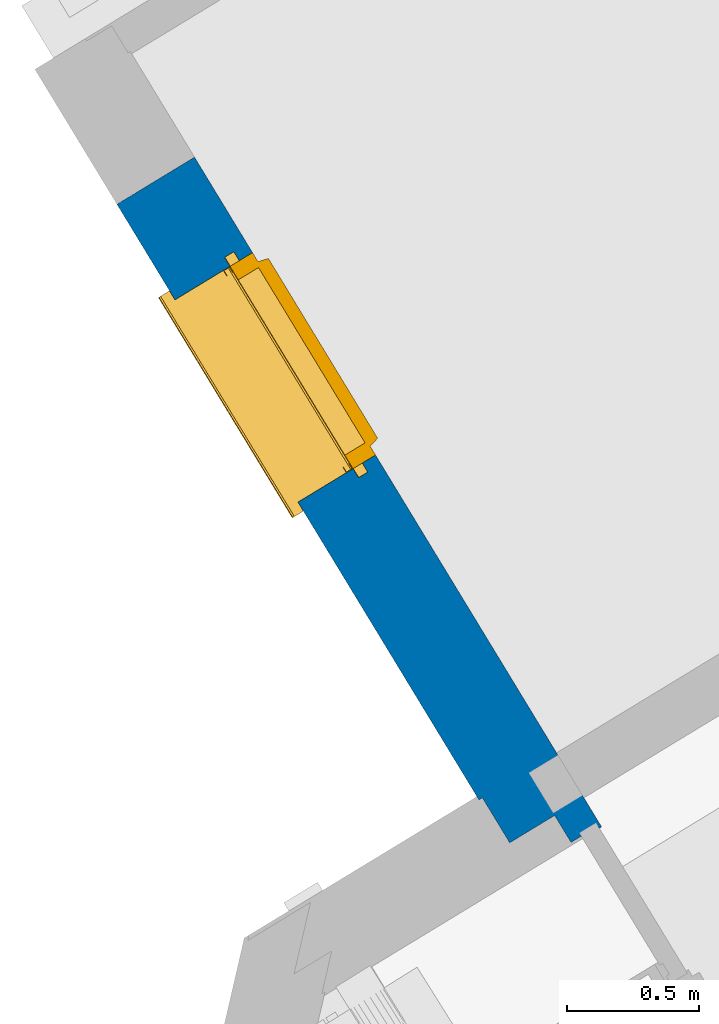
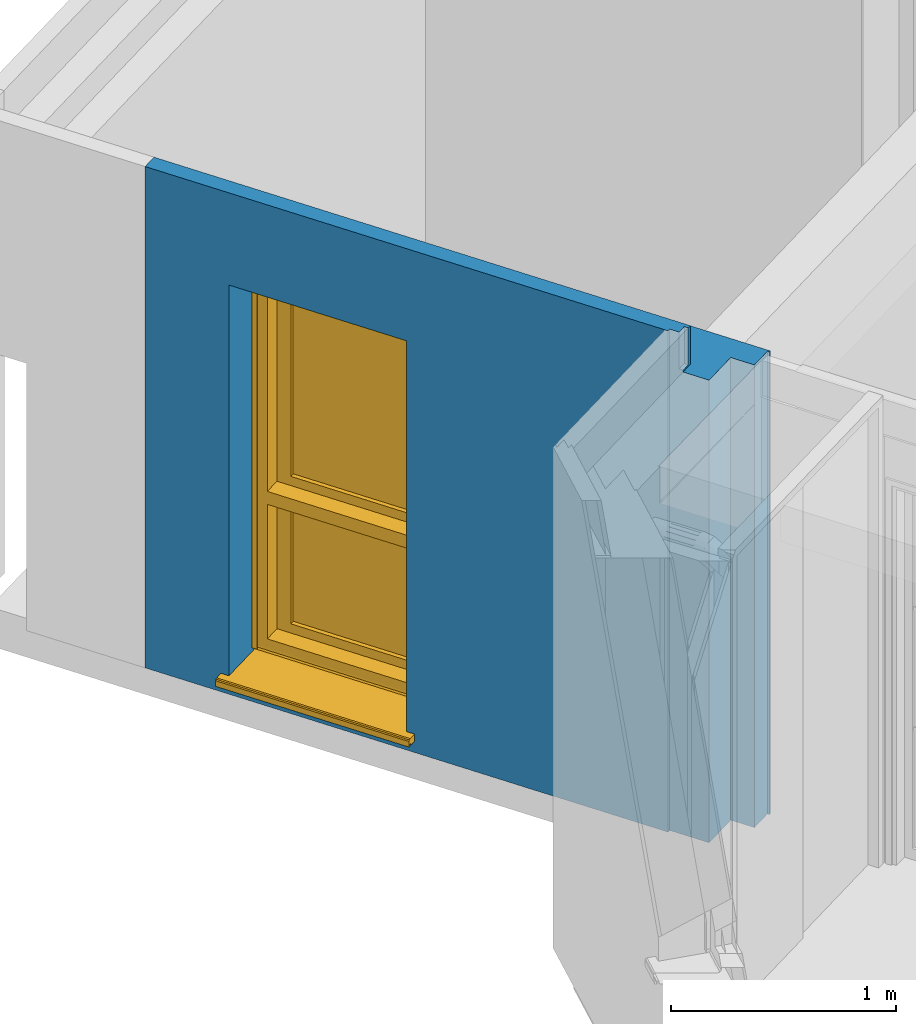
# One storey, part 35 of 90: 1 wall, 1 window, 1 opening.
"""IFC2X3 building model written with IfcOpenShell, lengths in metres."""

from ifc_helpers import new_model, entity, si_unit, converted_unit, derived_unit, money_unit, direction, frame, origin_with_axes, place, context, subcontext, project, spatial, open_shell, faceted_brep, surface_model, source, transform, mapped, material, material_list, type_object, element, fill, save


model = new_model("IFC2X3")

# Units and contexts
model_context = context("Model", 3, precision=1e-05, world=origin_with_axes(), true_north=direction((0.0, 1.0)))
body_context = subcontext(model_context, "Body", "Model", "MODEL_VIEW")
ifc_project = project(units=[si_unit("LENGTHUNIT", "METRE"), si_unit("AREAUNIT", "SQUARE_METRE"), si_unit("VOLUMEUNIT", "CUBIC_METRE"), converted_unit("PLANEANGLEUNIT", "DEGREE", entity("IfcPlaneAngleMeasure", 0.0174532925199), si_unit("PLANEANGLEUNIT", "RADIAN"), dimensions=[0, 0, 0, 0, 0, 0, 0]), si_unit("SOLIDANGLEUNIT", "STERADIAN"), money_unit("EUR"), converted_unit("TIMEUNIT", "Year", entity("IfcTimeMeasure", 31556926.0), si_unit("TIMEUNIT", "SECOND"), dimensions=[0, 0, 1, 0, 0, 0, 0]), si_unit("MASSUNIT", "GRAM", prefix="KILO"), si_unit("THERMODYNAMICTEMPERATUREUNIT", "DEGREE_CELSIUS"), si_unit("LUMINOUSINTENSITYUNIT", "LUMEN"), si_unit("ENERGYUNIT", "JOULE", prefix="MEGA"), derived_unit("THERMALCONDUCTANCEUNIT", [(si_unit("POWERUNIT", "WATT"), 1), (si_unit("LENGTHUNIT", "METRE"), -1), (si_unit("THERMODYNAMICTEMPERATUREUNIT", "KELVIN"), -1)]), derived_unit("SPECIFICHEATCAPACITYUNIT", [(si_unit("ENERGYUNIT", "JOULE"), 1), (si_unit("MASSUNIT", "GRAM", prefix="KILO"), -1), (si_unit("THERMODYNAMICTEMPERATUREUNIT", "KELVIN"), -1)]), derived_unit("MASSDENSITYUNIT", [(si_unit("MASSUNIT", "GRAM", prefix="KILO"), 1), (si_unit("VOLUMEUNIT", "CUBIC_METRE"), -1)])], contexts=[model_context])

# Site, building, storey
site_placement = place(None, origin_with_axes())
site = spatial("IfcSite", under=ifc_project, at=site_placement, Name="Site", CompositionType="ELEMENT")
building_placement = place(site_placement, origin_with_axes())
building = spatial("IfcBuilding", under=site, at=building_placement, Name="Bâtiment", CompositionType="ELEMENT")
storey_placement = place(building_placement, frame((0.0, 0.0, 2.72), z_axis=(0.0, 0.0, 1.0), x_axis=(1.0, 0.0, 0.0)))
storey = spatial("IfcBuildingStorey", under=building, at=storey_placement, Name="R+1", CompositionType="ELEMENT", Elevation=2.72)

# Wall, opening, window
ifc_material_1 = material(Name="Finition int - Plaque de plâtre")
ifc_material_2 = material(Name="Isolation - Polystyrène extrudé")
ifc_material_3 = material(Name="Bloc ELITHERM")
ifc_material_4 = material(Name="Isolation - Polystyrène expansé")
ifc_material_5 = material(Name="Mortier")
ifc_material_6 = material(Name="Béton cellulaire")
ifc_material_7 = material(Name="Finition ext - Crépis")
ifc_material_list = material_list([ifc_material_1, ifc_material_2, ifc_material_3, ifc_material_4, ifc_material_5, ifc_material_6, ifc_material_7])
wall_type = type_object("IfcWallType", Name="Mur ALKERN + planelle 21 345 x 2720", PredefinedType="USERDEFINED")
wall_placement = place(storey_placement, frame((-7.33457245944, 20.4304324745, 0.0), z_axis=(0.0, 0.0, 1.0), x_axis=(0.519386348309, -0.854539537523, 0.0)))
wall = element("IfcWall", 1, at=wall_placement, inside=storey, type_object=wall_type, material=ifc_material_list, Name="Mue bloc ALKERN isolé", ObjectType="SOLIDWALL", context=body_context, shape_type="Brep", body=[
    faceted_brep([(0.0, 0.34499998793, 2.51), (2.97982704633, 0.344999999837, 2.51), (2.97982704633, 0.344999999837, 2.31), (2.97982707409, 0.34499998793, 0.0), (0.0, 0.34499998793, 0.0), (0.42500000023, 0.34499998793, 2.4), (0.42500000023, 0.344999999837, 2.22), (0.42500000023, 0.344999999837, 0.12), (1.32500000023, 0.344999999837, 0.12), (1.32500000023, 0.344999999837, 2.22), (1.32500000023, 0.34499998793, 2.4), (0.0, 0.335000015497, 2.51), (2.97975719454, 0.335000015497, 2.51), (2.97975719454, 0.335000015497, 2.31), (2.9798270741, 0.335000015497, 0.0), (2.9798270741, 0.335000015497, 2.31), (0.0, 0.335000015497, 0.0), (0.42500000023, 0.335000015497, 2.4), (0.42500000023, 0.335000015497, 2.22), (0.42500000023, 0.335000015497, 0.12), (1.32500000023, 0.335000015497, 0.12), (1.32500000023, 0.335000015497, 2.22), (1.32500000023, 0.335000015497, 2.4)], [[[0, 1, 2, 3, 4], [5, 6, 7, 8, 9, 10]], [[0, 11, 12, 1]], [[12, 13, 2, 1]], [[14, 3, 2, 15]], [[14, 16, 4, 3]], [[0, 4, 16, 11]], [[6, 5, 17, 18]], [[6, 18, 19, 7]], [[7, 19, 20, 8]], [[21, 9, 8, 20]], [[10, 9, 21, 22]], [[5, 10, 22, 17]], [[13, 12, 11, 16, 14, 15], [22, 21, 20, 19, 18, 17]], [[15, 2, 13]]]),
    faceted_brep([(0.42500000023, 0.286, 0.12), (1.32500000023, 0.286, 0.12), (1.32500000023, 0.335000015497, 0.12), (0.42500000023, 0.335000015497, 0.12), (0.42500000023, 0.286, 0.06), (1.32500000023, 0.286, 0.06), (1.32500000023, 0.215000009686, 0.06), (1.32500000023, 0.215000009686, 0.12), (1.32500000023, 0.215, 2.22), (1.32500000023, 0.215, 2.4), (1.32500000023, 0.335000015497, 2.4), (1.32500000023, 0.335000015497, 2.22), (0.0, 0.335000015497, 2.51), (2.96982710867, 0.335000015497, 2.51), (2.96982710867, 0.335000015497, 0.0), (0.0, 0.335000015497, 0.0), (0.42500000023, 0.335000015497, 2.4), (0.42500000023, 0.335000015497, 2.22), (0.42500000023, 0.215000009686, 0.12), (0.42500000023, 0.215000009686, 0.06), (0.42500000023, 0.215, 2.4), (0.42500000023, 0.215, 2.22), (0.0, 0.215000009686, 0.0), (2.96982710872, 0.215000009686, 0.0), (2.96982710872, 0.215000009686, 2.51), (0.0, 0.215000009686, 2.51)], [[[0, 1, 2, 3]], [[1, 0, 4, 5]], [[1, 5, 6, 7, 8, 9, 10, 11, 2]], [[12, 13, 14, 15], [2, 11, 10, 16, 17, 3]], [[18, 19, 4, 0, 3, 17, 16, 20, 21]], [[19, 6, 5, 4]], [[22, 23, 24, 25], [19, 18, 21, 20, 9, 8, 7, 6]], [[10, 9, 20, 16]], [[25, 24, 13, 12]], [[23, 14, 13, 24]], [[15, 14, 23, 22]], [[15, 22, 25, 12]]]),
    faceted_brep([(0.0, 0.214999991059, 0.0), (0.0, 0.214999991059, 2.50999999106), (2.84982710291, 0.214999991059, 2.51), (2.84982710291, 0.214999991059, 0.0), (0.42500000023, 0.214999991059, 0.06), (1.32500000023, 0.214999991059, 0.06), (1.32500000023, 0.214999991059, 0.12), (1.32500000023, 0.214999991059, 2.22), (0.42500000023, 0.214999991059, 2.22), (0.42500000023, 0.214999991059, 0.12), (0.0, 0.015, 0.0), (0.0, 0.015, 2.50999999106), (0.0, 0.0829999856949, 2.50999999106), (2.84982710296, 0.0829999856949, 2.51), (2.84982710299, 0.015, 0.0), (2.84982710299, 0.015, 2.51), (0.42500000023, 0.015, 0.06), (1.32500000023, 0.015, 0.06), (1.32500000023, 0.015, 0.12), (1.32500000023, 0.015, 2.22), (0.42500000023, 0.015, 2.22), (0.42500000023, 0.015, 0.12)], [[[0, 1, 2, 3], [4, 5, 6, 7, 8, 9]], [[1, 0, 10, 11, 12]], [[1, 12, 13, 2]], [[14, 3, 2, 13, 15]], [[10, 0, 3, 14]], [[5, 4, 16, 17]], [[6, 5, 17, 18, 19, 7]], [[7, 19, 20, 8]], [[21, 16, 4, 9, 8, 20]], [[11, 10, 14, 15], [16, 21, 20, 19, 18, 17]], [[12, 11, 15, 13]]]),
    faceted_brep([(0.0, 0.0630000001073, 2.72), (2.71782709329, 0.0630000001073, 2.72), (2.71782709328, 0.083000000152, 2.72), (0.0, 0.083000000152, 2.72), (0.0, 0.0630000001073, 2.51999999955), (2.71782709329, 0.0630000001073, 2.51999998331), (2.71782709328, 0.083000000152, 2.51999998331), (0.0, 0.083000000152, 2.51999999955)], [[[0, 1, 2, 3]], [[4, 5, 1, 0]], [[5, 6, 2, 1]], [[3, 2, 6, 7]], [[7, 4, 0, 3]], [[7, 6, 5, 4]]]),
    faceted_brep([(2.71782709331, 0.015, 2.51999998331), (2.71782709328, 0.083, 2.51999998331), (0.0, 0.083, 2.52), (0.0, 0.015, 2.52), (2.71782709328, 0.083, 2.51000000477), (2.71782709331, 0.015, 2.51000000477), (0.0, 0.083, 2.51), (0.0, 0.015, 2.51)], [[[0, 1, 2, 3]], [[4, 1, 0, 5]], [[1, 4, 6, 2]], [[3, 2, 6, 7]], [[5, 0, 3, 7]], [[4, 5, 7, 6]]]),
    faceted_brep([(2.69782709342, 0.015, 2.72), (2.6978270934, 0.0629999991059, 2.72), (0.0, 0.0629999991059, 2.72), (0.0, 0.015, 2.72), (2.6978270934, 0.0629999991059, 2.51999999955), (2.69782709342, 0.015, 2.51999999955), (0.0, 0.0629999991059, 2.51999999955), (0.0, 0.015, 2.51999999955)], [[[0, 1, 2, 3]], [[4, 1, 0, 5]], [[1, 4, 6, 2]], [[3, 2, 6, 7]], [[5, 0, 3, 7]], [[4, 5, 7, 6]]]),
    faceted_brep([(2.64982709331, 0.0149999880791, 0.0), (0.0, 0.0149999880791, 0.0), (0.0, 0.0149999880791, 2.72), (2.64982709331, 0.0149999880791, 2.72), (0.42500000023, 0.0149999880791, 0.06), (1.32500000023, 0.0149999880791, 0.06), (1.32500000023, 0.0149999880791, 0.12), (1.32500000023, 0.0149999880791, 2.22), (0.42500000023, 0.0149999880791, 2.22), (0.42500000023, 0.0149999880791, 0.12), (2.64982709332, 0.0, 0.0), (0.0, 0.0, 0.0), (0.0, 0.0, 2.72), (2.64982709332, 0.0, 2.72), (0.42500000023, 0.0, 0.06), (1.32500000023, 0.0, 0.06), (1.32500000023, 0.0, 0.12), (1.32500000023, 0.0, 2.22), (0.42500000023, 0.0, 2.22), (0.42500000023, 0.0, 0.12)], [[[0, 1, 2, 3], [4, 5, 6, 7, 8, 9]], [[10, 11, 1, 0]], [[12, 2, 1, 11]], [[3, 2, 12, 13]], [[13, 10, 0, 3]], [[5, 4, 14, 15]], [[6, 5, 15, 16, 17, 7]], [[7, 17, 18, 8]], [[19, 14, 4, 9, 8, 18]], [[12, 11, 10, 13], [14, 19, 18, 17, 16, 15]]]),
])
opening_placement = place(wall_placement, frame((0.87500000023, 0.0, 0.12), z_axis=(0.0, 0.0, 1.0), x_axis=(1.0, 0.0, 0.0)))
opening = element("IfcOpeningElement", 2, at=opening_placement, cuts=wall, Name="MEN 41", context=body_context, shape_type="Brep", body=[
    faceted_brep([(-0.45, 0.83499998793, 0.0), (0.45, 0.83499998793, 0.0), (0.45, 0.245, 0.0), (-0.45, 0.245, 0.0), (-0.45, 0.83499998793, 2.1), (0.45, 0.83499998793, 2.1), (0.45, 0.245, 2.1), (-0.45, 0.245, 2.1)], [[[0, 1, 2, 3]], [[0, 4, 5, 1]], [[1, 5, 6, 2]], [[3, 2, 6, 7]], [[4, 0, 3, 7]], [[5, 4, 7, 6]]]),
    faceted_brep([(-0.45, -0.34499998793, 0.0), (-0.45, -0.34499998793, 2.1), (-0.45, 0.245, 2.1), (-0.45, 0.245, 0.0), (0.45, -0.34499998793, 0.0), (0.45, -0.34499998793, 2.1), (0.45, 0.245, 2.1), (0.45, 0.245, 0.0)], [[[0, 1, 2, 3]], [[0, 4, 5, 1]], [[1, 5, 6, 2]], [[3, 2, 6, 7]], [[4, 0, 3, 7]], [[5, 4, 7, 6]]]),
    faceted_brep([(-0.45, -0.34499998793, 0.0), (-0.45, -0.34499998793, 2.1), (-0.45, 0.245, 2.1), (-0.45, 0.245, 0.0), (0.45, -0.34499998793, 0.0), (0.45, -0.34499998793, 2.1), (0.45, 0.245, 2.1), (0.45, 0.245, 0.0)], [[[0, 1, 2, 3]], [[0, 4, 5, 1]], [[1, 5, 6, 2]], [[3, 2, 6, 7]], [[4, 0, 3, 7]], [[5, 4, 7, 6]]]),
    faceted_brep([(-0.45, 0.80499998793, 2.1), (0.45, 0.80499998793, 2.1), (0.45, 0.215, 2.1), (-0.45, 0.215, 2.1), (-0.45, 0.80499998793, 2.28), (0.45, 0.80499998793, 2.28), (0.45, 0.215, 2.28), (-0.45, 0.215, 2.28)], [[[0, 1, 2, 3]], [[0, 4, 5, 1]], [[1, 5, 6, 2]], [[3, 2, 6, 7]], [[4, 0, 3, 7]], [[5, 4, 7, 6]]]),
    faceted_brep([(-0.45, -0.30399998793, 0.0), (0.45, -0.30399998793, 0.0), (0.45, 0.286, 0.0), (-0.45, 0.286, 0.0), (-0.45, -0.30399998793, -0.06), (0.45, -0.30399998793, -0.06), (0.45, 0.286, -0.06), (-0.45, 0.286, -0.06)], [[[0, 1, 2, 3]], [[0, 4, 5, 1]], [[1, 5, 6, 2]], [[3, 2, 6, 7]], [[4, 0, 3, 7]], [[5, 4, 7, 6]]]),
])
window_style = type_object("IfcWindowStyle", Name="Baie générique 2017 v2", ConstructionType="NOTDEFINED", OperationType="NOTDEFINED", ParameterTakesPrecedence=False, Sizeable=False)
shared_shape = source(origin_with_axes(), body_context, "Body", "SurfaceModel", [
    faceted_brep([(-0.45, 0.0, 2.1), (-0.45, 0.0, 0.0), (0.45, 0.0, 0.0), (0.45, 0.0, 2.1), (0.39, 0.0, 0.85), (-0.39, 0.0, 0.85), (-0.39, 0.0, 2.05), (0.39, 0.0, 2.05), (0.39, 0.0, 0.78), (0.39, 0.0, 0.05), (-0.39, 0.0, 0.05), (-0.39, 0.0, 0.78), (-0.45, 0.1, 2.1), (-0.45, 0.1, 0.0), (0.45, 0.1, 0.0), (0.45, 0.1, 2.1), (0.39, 0.1, 0.85), (-0.39, 0.1, 0.85), (-0.39, 0.1, 2.05), (0.39, 0.1, 2.05), (0.39, 0.1, 0.78), (0.39, 0.1, 0.05), (-0.39, 0.1, 0.05), (-0.39, 0.1, 0.78)], [[[0, 1, 2, 3], [4, 5, 6, 7], [8, 9, 10, 11]], [[0, 12, 13, 1]], [[1, 13, 14, 2]], [[2, 14, 15, 3]], [[3, 15, 12, 0]], [[4, 16, 17, 5]], [[5, 17, 18, 6]], [[6, 18, 19, 7]], [[16, 4, 7, 19]], [[8, 20, 21, 9]], [[9, 21, 22, 10]], [[23, 11, 10, 22]], [[20, 8, 11, 23]], [[14, 13, 12, 15], [16, 19, 18, 17], [20, 23, 22, 21]]]),
    faceted_brep([(0.32, 0.09, 1.98), (0.32, 0.14, 1.98), (0.32, 0.14, 0.9), (0.32, 0.09, 0.9), (-0.32, 0.09, 1.98), (-0.32, 0.14, 1.98), (0.400012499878, 0.140000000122, 0.839987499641), (-0.400012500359, 0.140000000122, 0.839987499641), (-0.400012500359, 0.140000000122, 2.0600124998), (0.400012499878, 0.140000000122, 2.0600124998), (-0.32, 0.14, 0.9), (-0.32, 0.09, 0.9), (0.39, 0.09, 2.05), (-0.39, 0.09, 2.05), (-0.39, 0.09, 0.85), (0.39, 0.09, 0.85), (0.41, 0.10005, 0.83), (-0.41, 0.10005, 0.83), (-0.41, 0.10005, 2.07), (0.41, 0.10005, 2.07), (0.39, 0.10005, 2.05), (-0.39, 0.10005, 2.05), (-0.39, 0.10005, 0.85), (0.39, 0.10005, 0.85)], [[[0, 1, 2, 3]], [[4, 5, 1, 0]], [[6, 7, 8, 9], [2, 1, 5, 10]], [[11, 3, 2, 10]], [[12, 13, 14, 15], [0, 3, 11, 4]], [[4, 11, 10, 5]], [[6, 16, 17, 7]], [[7, 17, 18, 8]], [[8, 18, 19, 9]], [[9, 19, 16, 6]], [[20, 21, 13, 12]], [[21, 22, 14, 13]], [[22, 23, 15, 14]], [[23, 20, 12, 15]], [[19, 18, 17, 16], [21, 20, 23, 22]]]),
    surface_model("IfcShellBasedSurfaceModel", [(-0.39, 0.14, 0.85), (-0.39, 0.115, 0.85), (-0.39, 0.115, 2.05), (-0.39, 0.14, 2.05)], [open_shell([[[0, 1, 2, 3]]])]),
    surface_model("IfcShellBasedSurfaceModel", [(0.39, 0.14, 0.85), (0.39, 0.115, 0.85), (0.39, 0.115, 2.05), (0.39, 0.14, 2.05)], [open_shell([[[0, 1, 2, 3]]])]),
    surface_model("IfcShellBasedSurfaceModel", [(-0.39, 0.14, 0.85), (-0.39, 0.115, 0.85), (0.39, 0.115, 0.85), (0.39, 0.14, 0.85)], [open_shell([[[0, 1, 2, 3]]])]),
    surface_model("IfcShellBasedSurfaceModel", [(-0.39, 0.14, 2.05), (-0.39, 0.115, 2.05), (0.39, 0.115, 2.05), (0.39, 0.14, 2.05)], [open_shell([[[0, 1, 2, 3]]])]),
    surface_model("IfcShellBasedSurfaceModel", [(-0.39, 0.115, 0.85), (-0.39, 0.09, 0.85), (-0.39, 0.09, 2.05), (-0.39, 0.115, 2.05)], [open_shell([[[0, 1, 2, 3]]])]),
    surface_model("IfcShellBasedSurfaceModel", [(0.39, 0.115, 0.85), (0.39, 0.09, 0.85), (0.39, 0.09, 2.05), (0.39, 0.115, 2.05)], [open_shell([[[0, 1, 2, 3]]])]),
    surface_model("IfcShellBasedSurfaceModel", [(-0.39, 0.115, 0.85), (-0.39, 0.09, 0.85), (0.39, 0.09, 0.85), (0.39, 0.115, 0.85)], [open_shell([[[0, 1, 2, 3]]])]),
    surface_model("IfcShellBasedSurfaceModel", [(-0.39, 0.115, 2.05), (-0.39, 0.09, 2.05), (0.39, 0.09, 2.05), (0.39, 0.115, 2.05)], [open_shell([[[0, 1, 2, 3]]])]),
    faceted_brep([(-0.32, 0.1175, 0.9), (0.32, 0.1175, 0.9), (0.32, 0.1125, 0.9), (-0.32, 0.1125, 0.9), (-0.32, 0.1175, 1.98), (0.32, 0.1175, 1.98), (0.32, 0.1125, 1.98), (-0.32, 0.1125, 1.98)], [[[0, 1, 2, 3]], [[0, 4, 5, 1]], [[1, 5, 6, 2]], [[3, 2, 6, 7]], [[4, 0, 3, 7]], [[5, 4, 7, 6]]]),
    faceted_brep([(0.32, 0.09, 0.71), (0.32, 0.14, 0.71), (0.32, 0.14, 0.1), (0.32, 0.09, 0.1), (-0.32, 0.09, 0.71), (-0.32, 0.14, 0.71), (0.400012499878, 0.140000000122, 0.039987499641), (-0.400012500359, 0.140000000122, 0.039987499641), (-0.400012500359, 0.140000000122, 0.790012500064), (0.400012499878, 0.140000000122, 0.790012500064), (-0.32, 0.14, 0.1), (-0.32, 0.09, 0.1), (0.39, 0.09, 0.78), (-0.39, 0.09, 0.78), (-0.39, 0.09, 0.05), (0.39, 0.09, 0.05), (0.41, 0.10005, 0.03), (-0.41, 0.10005, 0.03), (-0.41, 0.10005, 0.8), (0.41, 0.10005, 0.8), (0.39, 0.10005, 0.78), (-0.39, 0.10005, 0.78), (-0.39, 0.10005, 0.05), (0.39, 0.10005, 0.05)], [[[0, 1, 2, 3]], [[4, 5, 1, 0]], [[6, 7, 8, 9], [2, 1, 5, 10]], [[11, 3, 2, 10]], [[12, 13, 14, 15], [0, 3, 11, 4]], [[4, 11, 10, 5]], [[6, 16, 17, 7]], [[7, 17, 18, 8]], [[8, 18, 19, 9]], [[9, 19, 16, 6]], [[20, 21, 13, 12]], [[21, 22, 14, 13]], [[22, 23, 15, 14]], [[23, 20, 12, 15]], [[19, 18, 17, 16], [21, 20, 23, 22]]]),
    surface_model("IfcShellBasedSurfaceModel", [(-0.39, 0.14, 0.05), (-0.39, 0.115, 0.05), (-0.39, 0.115, 0.78), (-0.39, 0.14, 0.78)], [open_shell([[[0, 1, 2, 3]]])]),
    surface_model("IfcShellBasedSurfaceModel", [(0.39, 0.14, 0.05), (0.39, 0.115, 0.05), (0.39, 0.115, 0.78), (0.39, 0.14, 0.78)], [open_shell([[[0, 1, 2, 3]]])]),
    surface_model("IfcShellBasedSurfaceModel", [(-0.39, 0.14, 0.05), (-0.39, 0.115, 0.05), (0.39, 0.115, 0.05), (0.39, 0.14, 0.05)], [open_shell([[[0, 1, 2, 3]]])]),
    surface_model("IfcShellBasedSurfaceModel", [(-0.39, 0.14, 0.78), (-0.39, 0.115, 0.78), (0.39, 0.115, 0.78), (0.39, 0.14, 0.78)], [open_shell([[[0, 1, 2, 3]]])]),
    surface_model("IfcShellBasedSurfaceModel", [(-0.39, 0.115, 0.05), (-0.39, 0.09, 0.05), (-0.39, 0.09, 0.78), (-0.39, 0.115, 0.78)], [open_shell([[[0, 1, 2, 3]]])]),
    surface_model("IfcShellBasedSurfaceModel", [(0.39, 0.115, 0.05), (0.39, 0.09, 0.05), (0.39, 0.09, 0.78), (0.39, 0.115, 0.78)], [open_shell([[[0, 1, 2, 3]]])]),
    surface_model("IfcShellBasedSurfaceModel", [(-0.39, 0.115, 0.05), (-0.39, 0.09, 0.05), (0.39, 0.09, 0.05), (0.39, 0.115, 0.05)], [open_shell([[[0, 1, 2, 3]]])]),
    surface_model("IfcShellBasedSurfaceModel", [(-0.39, 0.115, 0.78), (-0.39, 0.09, 0.78), (0.39, 0.09, 0.78), (0.39, 0.115, 0.78)], [open_shell([[[0, 1, 2, 3]]])]),
    faceted_brep([(-0.32, 0.1175, 0.1), (0.32, 0.1175, 0.1), (0.32, 0.1125, 0.1), (-0.32, 0.1125, 0.1), (-0.32, 0.1175, 0.71), (0.32, 0.1175, 0.71), (0.32, 0.1125, 0.71), (-0.32, 0.1125, 0.71)], [[[0, 1, 2, 3]], [[0, 4, 5, 1]], [[1, 5, 6, 2]], [[3, 2, 6, 7]], [[4, 0, 3, 7]], [[5, 4, 7, 6]]]),
    faceted_brep([(-0.45, -0.03, 0.0), (-0.425, -0.03, 0.0), (-0.425, -0.03, 2.1), (-0.45, -0.03, 2.1), (-0.45, -0.002, 0.0), (-0.425, -0.002, 0.0), (-0.425, -0.004, 0.0), (-0.448, -0.004, 0.0), (-0.448, -0.028, 0.0), (-0.425, -0.028, 0.0), (-0.425, -0.028, 2.1), (-0.448, -0.028, 2.1), (-0.448, -0.004, 2.1), (-0.425, -0.004, 2.1), (-0.425, -0.002, 2.1), (-0.45, -0.002, 2.1)], [[[0, 1, 2, 3]], [[0, 4, 5, 6, 7, 8, 9, 1]], [[1, 9, 10, 2]], [[3, 2, 10, 11, 12, 13, 14, 15]], [[4, 0, 3, 15]], [[5, 4, 15, 14]], [[6, 5, 14, 13]], [[7, 6, 13, 12]], [[8, 7, 12, 11]], [[9, 8, 11, 10]]]),
    faceted_brep([(0.45, -0.03, 0.0), (0.45, -0.03, 2.1), (0.425, -0.03, 2.1), (0.425, -0.03, 0.0), (0.45, -0.002, 0.0), (0.45, -0.002, 2.1), (0.425, -0.002, 2.1), (0.425, -0.004, 2.1), (0.448, -0.004, 2.1), (0.448, -0.028, 2.1), (0.425, -0.028, 2.1), (0.425, -0.028, 0.0), (0.448, -0.028, 0.0), (0.448, -0.004, 0.0), (0.425, -0.004, 0.0), (0.425, -0.002, 0.0)], [[[0, 1, 2, 3]], [[4, 5, 1, 0]], [[1, 5, 6, 7, 8, 9, 10, 2]], [[3, 2, 10, 11]], [[0, 3, 11, 12, 13, 14, 15, 4]], [[15, 6, 5, 4]], [[14, 7, 6, 15]], [[13, 8, 7, 14]], [[12, 9, 8, 13]], [[11, 10, 9, 12]]]),
    faceted_brep([(0.448, -0.028, 2.1), (-0.448, -0.028, 2.1), (-0.448, -0.028, 2.278), (0.448, -0.028, 2.278), (0.448, -0.03, 2.1), (-0.448, -0.03, 2.1), (-0.448, -0.03, 2.28), (-0.448, 0.17, 2.28), (-0.448, 0.17, 2.1), (-0.448, 0.168, 2.1), (-0.448, 0.168, 2.278), (0.448, 0.168, 2.278), (0.448, 0.168, 2.1), (0.448, 0.17, 2.1), (0.448, 0.17, 2.28), (0.448, -0.03, 2.28)], [[[0, 1, 2, 3]], [[4, 5, 1, 0]], [[1, 5, 6, 7, 8, 9, 10, 2]], [[3, 2, 10, 11]], [[0, 3, 11, 12, 13, 14, 15, 4]], [[15, 6, 5, 4]], [[14, 7, 6, 15]], [[13, 8, 7, 14]], [[12, 9, 8, 13]], [[11, 10, 9, 12]]]),
    faceted_brep([(0.448, 0.0724697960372, 2.17436337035), (0.448, 0.08, 2.19), (0.448, 0.0724697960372, 2.20563662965), (0.448, 0.0555495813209, 2.20949855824), (0.448, 0.041980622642, 2.19867767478), (0.448, 0.041980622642, 2.18132232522), (0.448, 0.0555495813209, 2.17050144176), (-0.448, 0.0724697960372, 2.17436337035), (-0.448, 0.08, 2.19), (-0.448, 0.0724697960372, 2.20563662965), (-0.448, 0.0555495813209, 2.20949855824), (-0.448, 0.041980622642, 2.19867767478), (-0.448, 0.041980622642, 2.18132232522), (-0.448, 0.0555495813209, 2.17050144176)], [[[0, 1, 2, 3, 4, 5, 6]], [[0, 7, 8, 1]], [[1, 8, 9, 2]], [[2, 9, 10, 3]], [[3, 10, 11, 4]], [[4, 11, 12, 5]], [[5, 12, 13, 6]], [[6, 13, 7, 0]], [[7, 13, 12, 11, 10, 9, 8]]]),
    faceted_brep([(0.438, 0.130275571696, 2.15615706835), (0.438, 0.138, 2.19), (0.438, 0.130275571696, 2.22384293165), (0.438, 0.108632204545, 2.25098285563), (0.438, 0.0773566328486, 2.26604437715), (0.438, 0.0426433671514, 2.26604437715), (0.438, 0.011367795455, 2.25098285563), (0.438, -0.0102755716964, 2.22384293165), (0.438, -0.018, 2.19), (0.438, -0.0102755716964, 2.15615706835), (0.438, 0.011367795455, 2.12901714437), (0.438, 0.0426433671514, 2.11395562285), (0.438, 0.0773566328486, 2.11395562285), (0.438, 0.108632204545, 2.12901714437), (-0.438, 0.130275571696, 2.15615706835), (-0.438, 0.138, 2.19), (-0.438, 0.130275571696, 2.22384293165), (-0.438, 0.108632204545, 2.25098285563), (-0.438, 0.0773566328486, 2.26604437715), (-0.438, 0.0426433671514, 2.26604437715), (-0.438, 0.011367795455, 2.25098285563), (-0.438, -0.0102755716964, 2.22384293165), (-0.438, -0.018, 2.19), (-0.438, -0.0102755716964, 2.15615706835), (-0.438, 0.011367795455, 2.12901714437), (-0.438, 0.0426433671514, 2.11395562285), (-0.438, 0.0773566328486, 2.11395562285), (-0.438, 0.108632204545, 2.12901714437)], [[[0, 1, 2, 3, 4, 5, 6, 7, 8, 9, 10, 11, 12, 13]], [[0, 14, 15, 1]], [[1, 15, 16, 2]], [[2, 16, 17, 3]], [[3, 17, 18, 4]], [[4, 18, 19, 5]], [[5, 19, 20, 6]], [[6, 20, 21, 7]], [[7, 21, 22, 8]], [[8, 22, 23, 9]], [[9, 23, 24, 10]], [[10, 24, 25, 11]], [[11, 25, 26, 12]], [[12, 26, 27, 13]], [[13, 27, 14, 0]], [[14, 27, 26, 25, 24, 23, 22, 21, 20, 19, 18, 17, 16, 15]]]),
    faceted_brep([(0.45, 0.17, 2.1), (0.448, 0.17, 2.1), (0.448, 0.17, 2.28), (0.45, 0.17, 2.28), (0.45, -0.03, 2.1), (0.448, -0.03, 2.1), (0.448, -0.03, 2.28), (0.45, -0.03, 2.28)], [[[0, 1, 2, 3]], [[4, 5, 1, 0]], [[1, 5, 6, 2]], [[3, 2, 6, 7]], [[0, 3, 7, 4]], [[7, 6, 5, 4]]]),
    faceted_brep([(-0.448, 0.17, 2.1), (-0.45, 0.17, 2.1), (-0.45, 0.17, 2.28), (-0.448, 0.17, 2.28), (-0.448, -0.03, 2.1), (-0.45, -0.03, 2.1), (-0.45, -0.03, 2.28), (-0.448, -0.03, 2.28)], [[[0, 1, 2, 3]], [[4, 5, 1, 0]], [[1, 5, 6, 2]], [[3, 2, 6, 7]], [[0, 3, 7, 4]], [[7, 6, 5, 4]]]),
    faceted_brep([(0.448, -0.004, 2.1), (-0.448, -0.004, 2.1), (-0.448, 0.168, 2.1), (0.448, 0.168, 2.1), (0.448, -0.004, 2.102), (-0.448, -0.004, 2.102), (-0.448, 0.168, 2.102), (0.448, 0.168, 2.102)], [[[0, 1, 2, 3]], [[4, 5, 1, 0]], [[1, 5, 6, 2]], [[3, 2, 6, 7]], [[0, 3, 7, 4]], [[7, 6, 5, 4]]]),
    faceted_brep([(-0.438, -0.006, 2.1), (-0.438, -0.006, 2.19), (0.438, -0.006, 2.19), (0.438, -0.006, 2.1), (-0.438, -0.026, 2.1), (-0.438, -0.026, 2.19), (0.438, -0.026, 2.19), (0.438, -0.026, 2.1)], [[[0, 1, 2, 3]], [[1, 0, 4, 5]], [[2, 1, 5, 6]], [[3, 2, 6, 7]], [[4, 0, 3, 7]], [[5, 4, 7, 6]]]),
    faceted_brep([(0.45, -0.00167949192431, -0.01), (0.45, 0.0, -0.00373205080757), (0.49, 0.0, -0.00373205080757), (0.49, 0.001, 0.0), (-0.49, 0.001, 0.0), (-0.49, 0.0, -0.00373205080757), (-0.45, 0.0, -0.00373205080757), (-0.45, -0.00167949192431, -0.01), (0.45, -0.009, -0.0173205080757), (0.45, -0.019, -0.02), (0.45, -0.245, -0.02), (0.45, -0.245, -0.06), (0.45, 0.0, -0.06), (0.49, 0.0, -0.06), (0.49, 0.041, -0.06), (0.49, 0.041, 0.0), (-0.49, 0.041, 0.0), (-0.49, 0.041, -0.06), (-0.49, 0.0, -0.06), (-0.45, 0.0, -0.06), (-0.45, -0.245, -0.02), (-0.45, -0.019, -0.02), (-0.45, -0.009, -0.0173205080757), (-0.45, -0.245, -0.06), (-0.49, -0.245, -0.02), (-0.49, -0.285, -0.02), (0.49, -0.285, -0.02), (0.49, -0.245, -0.02), (0.49, -0.245, -0.06), (0.49, -0.275, -0.06), (-0.49, -0.275, -0.06), (-0.49, -0.245, -0.06), (-0.49, -0.295, -0.03), (-0.49, -0.292071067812, -0.0229289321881), (-0.49, -0.275, -0.05), (-0.49, -0.285, -0.05), (-0.49, -0.285, -0.06), (-0.49, -0.295, -0.06), (0.49, -0.292071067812, -0.0229289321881), (0.49, -0.295, -0.03), (0.49, -0.295, -0.06), (0.49, -0.285, -0.06), (0.49, -0.285, -0.05), (0.49, -0.275, -0.05)], [[[0, 1, 2, 3, 4, 5, 6, 7]], [[1, 0, 8, 9, 10, 11, 12]], [[13, 2, 1, 12]], [[2, 13, 14, 15, 3]], [[16, 4, 3, 15]], [[4, 16, 17, 18, 5]], [[5, 18, 19, 6]], [[20, 21, 22, 7, 6, 19, 23]], [[8, 0, 7, 22]], [[9, 8, 22, 21]], [[10, 9, 21, 20, 24, 25, 26, 27]], [[10, 27, 28, 11]], [[11, 28, 29, 30, 31, 23, 19, 18, 17, 14, 13, 12]], [[17, 16, 15, 14]], [[20, 23, 31, 24]], [[32, 33, 25, 24, 31, 30, 34, 35, 36, 37]], [[25, 33, 38, 26]], [[28, 27, 26, 38, 39, 40, 41, 42, 43, 29]], [[34, 30, 29, 43]], [[33, 32, 39, 38]], [[35, 34, 43, 42]], [[36, 35, 42, 41]], [[37, 36, 41, 40]], [[32, 37, 40, 39]]]),
])
window_placement = place(opening_placement, frame((-0.45, 0.0, 0.0), z_axis=(0.0, 0.0, 1.0), x_axis=(1.0, 0.0, 0.0)))
window = element("IfcWindow", 3, at=window_placement, inside=storey, type_object=window_style, Name="MEN 41", ObjectType="WINDOW", OverallHeight=2.1, OverallWidth=0.9, context=body_context, shape_type="MappedRepresentation", body=[
    mapped(shared_shape, transform((0.45, 0.245, 0.0))),
])
fill(opening, window)

save(model, "model.ifc")
